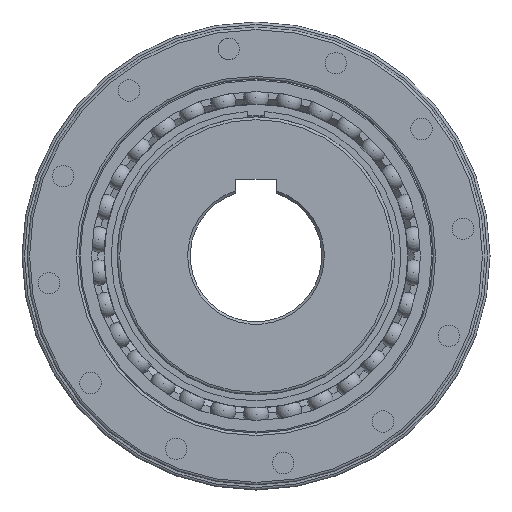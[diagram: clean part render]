
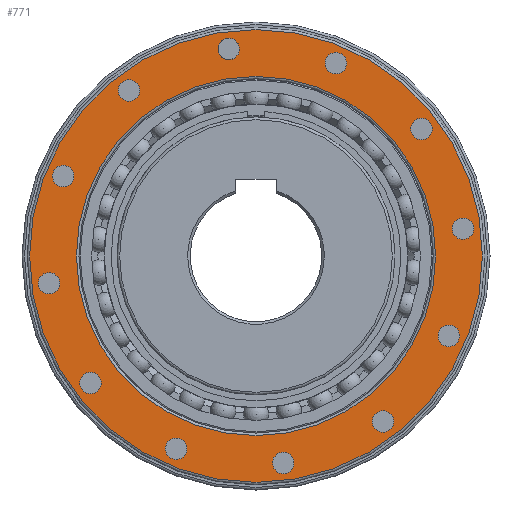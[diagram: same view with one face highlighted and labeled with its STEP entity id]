
A CAD part, left-side view. The second image highlights one B-rep face of the part: STEP entity #771.
In plain terms, the highlighted planar face has unit normal (-1, 0, 0).
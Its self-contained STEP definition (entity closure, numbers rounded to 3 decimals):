
#771 = ADVANCED_FACE( '', ( #1884, #1885, #1886, #1887, #1888, #1889, #1890, #1891, #1892, #1893, #1894, #1895, #1896, #1897 ), #1898, .T. );
#1884 = FACE_OUTER_BOUND( '', #3375, .T. );
#1885 = FACE_BOUND( '', #3376, .T. );
#1886 = FACE_BOUND( '', #3377, .T. );
#1887 = FACE_BOUND( '', #3378, .T. );
#1888 = FACE_BOUND( '', #3379, .T. );
#1889 = FACE_BOUND( '', #3380, .T. );
#1890 = FACE_BOUND( '', #3381, .T. );
#1891 = FACE_BOUND( '', #3382, .T. );
#1892 = FACE_BOUND( '', #3383, .T. );
#1893 = FACE_BOUND( '', #3384, .T. );
#1894 = FACE_BOUND( '', #3385, .T. );
#1895 = FACE_BOUND( '', #3386, .T. );
#1896 = FACE_BOUND( '', #3387, .T. );
#1897 = FACE_BOUND( '', #3388, .T. );
#1898 = PLANE( '', #3389 );
#3375 = EDGE_LOOP( '', ( #5712 ) );
#3376 = EDGE_LOOP( '', ( #5713 ) );
#3377 = EDGE_LOOP( '', ( #5714 ) );
#3378 = EDGE_LOOP( '', ( #5715 ) );
#3379 = EDGE_LOOP( '', ( #5716 ) );
#3380 = EDGE_LOOP( '', ( #5717 ) );
#3381 = EDGE_LOOP( '', ( #5718 ) );
#3382 = EDGE_LOOP( '', ( #5719 ) );
#3383 = EDGE_LOOP( '', ( #5720 ) );
#3384 = EDGE_LOOP( '', ( #5721 ) );
#3385 = EDGE_LOOP( '', ( #5722 ) );
#3386 = EDGE_LOOP( '', ( #5723 ) );
#3387 = EDGE_LOOP( '', ( #5724 ) );
#3388 = EDGE_LOOP( '', ( #5725 ) );
#3389 = AXIS2_PLACEMENT_3D( '', #5726, #5727, #5728 );
#5712 = ORIENTED_EDGE( '', *, *, #9038, .T. );
#5713 = ORIENTED_EDGE( '', *, *, #8569, .T. );
#5714 = ORIENTED_EDGE( '', *, *, #9039, .T. );
#5715 = ORIENTED_EDGE( '', *, *, #9040, .T. );
#5716 = ORIENTED_EDGE( '', *, *, #9041, .T. );
#5717 = ORIENTED_EDGE( '', *, *, #9042, .T. );
#5718 = ORIENTED_EDGE( '', *, *, #8314, .T. );
#5719 = ORIENTED_EDGE( '', *, *, #9043, .T. );
#5720 = ORIENTED_EDGE( '', *, *, #9044, .T. );
#5721 = ORIENTED_EDGE( '', *, *, #9045, .T. );
#5722 = ORIENTED_EDGE( '', *, *, #8433, .T. );
#5723 = ORIENTED_EDGE( '', *, *, #8896, .T. );
#5724 = ORIENTED_EDGE( '', *, *, #8653, .T. );
#5725 = ORIENTED_EDGE( '', *, *, #9046, .T. );
#5726 = CARTESIAN_POINT( '', ( 14.65, 0., 70. ) );
#5727 = DIRECTION( '', ( -1., 0., 0. ) );
#5728 = DIRECTION( '', ( 0., 0., 1. ) );
#8314 = EDGE_CURVE( '', #9932, #9932, #9933, .T. );
#8433 = EDGE_CURVE( '', #10133, #10133, #10134, .T. );
#8569 = EDGE_CURVE( '', #10368, #10368, #10369, .T. );
#8653 = EDGE_CURVE( '', #10512, #10512, #10513, .T. );
#8896 = EDGE_CURVE( '', #10906, #10906, #10907, .T. );
#9038 = EDGE_CURVE( '', #11129, #11129, #11130, .T. );
#9039 = EDGE_CURVE( '', #11131, #11131, #11132, .T. );
#9040 = EDGE_CURVE( '', #11133, #11133, #11134, .T. );
#9041 = EDGE_CURVE( '', #11135, #11135, #11136, .T. );
#9042 = EDGE_CURVE( '', #11137, #11137, #11138, .T. );
#9043 = EDGE_CURVE( '', #11139, #11139, #11140, .T. );
#9044 = EDGE_CURVE( '', #11141, #11141, #11142, .T. );
#9045 = EDGE_CURVE( '', #11143, #11143, #11144, .T. );
#9046 = EDGE_CURVE( '', #11145, #11145, #11146, .T. );
#9932 = VERTEX_POINT( '', #12456 );
#9933 = CIRCLE( '', #12457, 4.25 );
#10133 = VERTEX_POINT( '', #13632 );
#10134 = CIRCLE( '', #13633, 4.25 );
#10368 = VERTEX_POINT( '', #14602 );
#10369 = CIRCLE( '', #14603, 71. );
#10512 = VERTEX_POINT( '', #15416 );
#10513 = CIRCLE( '', #15417, 4.25 );
#10906 = VERTEX_POINT( '', #17654 );
#10907 = CIRCLE( '', #17655, 4.25 );
#11129 = VERTEX_POINT( '', #19042 );
#11130 = CIRCLE( '', #19043, 89.5 );
#11131 = VERTEX_POINT( '', #19044 );
#11132 = CIRCLE( '', #19045, 4.25 );
#11133 = VERTEX_POINT( '', #19046 );
#11134 = CIRCLE( '', #19047, 4.25 );
#11135 = VERTEX_POINT( '', #19048 );
#11136 = CIRCLE( '', #19049, 4.25 );
#11137 = VERTEX_POINT( '', #19050 );
#11138 = CIRCLE( '', #19051, 4.25 );
#11139 = VERTEX_POINT( '', #19052 );
#11140 = CIRCLE( '', #19053, 4.25 );
#11141 = VERTEX_POINT( '', #19054 );
#11142 = CIRCLE( '', #19055, 4.25 );
#11143 = VERTEX_POINT( '', #19056 );
#11144 = CIRCLE( '', #19057, 4.25 );
#11145 = VERTEX_POINT( '', #19058 );
#11146 = CIRCLE( '', #19059, 4.25 );
#12456 = CARTESIAN_POINT( '', ( 14.65, -31.571, 80.47 ) );
#12457 = AXIS2_PLACEMENT_3D( '', #23173, #23174, #23175 );
#13632 = CARTESIAN_POINT( '', ( 14.65, -50.223, -61.202 ) );
#13633 = AXIS2_PLACEMENT_3D( '', #23284, #23285, #23286 );
#14602 = CARTESIAN_POINT( '', ( 14.65, 0., 71. ) );
#14603 = AXIS2_PLACEMENT_3D( '', #23461, #23462, #23463 );
#15416 = CARTESIAN_POINT( '', ( 14.65, 31.571, -71.97 ) );
#15417 = AXIS2_PLACEMENT_3D( '', #23526, #23527, #23528 );
#17654 = CARTESIAN_POINT( '', ( 14.65, -10.768, -77.544 ) );
#17655 = AXIS2_PLACEMENT_3D( '', #23753, #23754, #23755 );
#19042 = CARTESIAN_POINT( '', ( 14.65, 0., 89.5 ) );
#19043 = AXIS2_PLACEMENT_3D( '', #23864, #23865, #23866 );
#19044 = CARTESIAN_POINT( '', ( 14.65, 81.794, -6.518 ) );
#19045 = AXIS2_PLACEMENT_3D( '', #23867, #23868, #23869 );
#19046 = CARTESIAN_POINT( '', ( 14.65, 76.22, 35.821 ) );
#19047 = AXIS2_PLACEMENT_3D( '', #23870, #23871, #23872 );
#19048 = CARTESIAN_POINT( '', ( 14.65, 50.223, 69.702 ) );
#19049 = AXIS2_PLACEMENT_3D( '', #23873, #23874, #23875 );
#19050 = CARTESIAN_POINT( '', ( 14.65, 10.768, 86.044 ) );
#19051 = AXIS2_PLACEMENT_3D( '', #23876, #23877, #23878 );
#19052 = CARTESIAN_POINT( '', ( 14.65, -65.452, 54.473 ) );
#19053 = AXIS2_PLACEMENT_3D( '', #23879, #23880, #23881 );
#19054 = CARTESIAN_POINT( '', ( 14.65, -81.794, 15.018 ) );
#19055 = AXIS2_PLACEMENT_3D( '', #23882, #23883, #23884 );
#19056 = CARTESIAN_POINT( '', ( 14.65, -76.22, -27.321 ) );
#19057 = AXIS2_PLACEMENT_3D( '', #23885, #23886, #23887 );
#19058 = CARTESIAN_POINT( '', ( 14.65, 65.452, -45.973 ) );
#19059 = AXIS2_PLACEMENT_3D( '', #23888, #23889, #23890 );
#23173 = CARTESIAN_POINT( '', ( 14.65, -31.571, 76.22 ) );
#23174 = DIRECTION( '', ( 1., 0., 0. ) );
#23175 = DIRECTION( '', ( 0., 0., 1. ) );
#23284 = CARTESIAN_POINT( '', ( 14.65, -50.223, -65.452 ) );
#23285 = DIRECTION( '', ( 1., 0., 0. ) );
#23286 = DIRECTION( '', ( 0., 0., 1. ) );
#23461 = CARTESIAN_POINT( '', ( 14.65, 0., 0. ) );
#23462 = DIRECTION( '', ( 1., 0., 0. ) );
#23463 = DIRECTION( '', ( 0., 0., 1. ) );
#23526 = CARTESIAN_POINT( '', ( 14.65, 31.571, -76.22 ) );
#23527 = DIRECTION( '', ( 1., 0., 0. ) );
#23528 = DIRECTION( '', ( 0., 0., 1. ) );
#23753 = CARTESIAN_POINT( '', ( 14.65, -10.768, -81.794 ) );
#23754 = DIRECTION( '', ( 1., 0., 0. ) );
#23755 = DIRECTION( '', ( 0., 0., 1. ) );
#23864 = CARTESIAN_POINT( '', ( 14.65, 0., 0. ) );
#23865 = DIRECTION( '', ( -1., 0., 0. ) );
#23866 = DIRECTION( '', ( 0., 0., 1. ) );
#23867 = CARTESIAN_POINT( '', ( 14.65, 81.794, -10.768 ) );
#23868 = DIRECTION( '', ( 1., 0., 0. ) );
#23869 = DIRECTION( '', ( 0., 0., 1. ) );
#23870 = CARTESIAN_POINT( '', ( 14.65, 76.22, 31.571 ) );
#23871 = DIRECTION( '', ( 1., 0., 0. ) );
#23872 = DIRECTION( '', ( 0., 0., 1. ) );
#23873 = CARTESIAN_POINT( '', ( 14.65, 50.223, 65.452 ) );
#23874 = DIRECTION( '', ( 1., 0., 0. ) );
#23875 = DIRECTION( '', ( 0., 0., 1. ) );
#23876 = CARTESIAN_POINT( '', ( 14.65, 10.768, 81.794 ) );
#23877 = DIRECTION( '', ( 1., 0., 0. ) );
#23878 = DIRECTION( '', ( 0., 0., 1. ) );
#23879 = CARTESIAN_POINT( '', ( 14.65, -65.452, 50.223 ) );
#23880 = DIRECTION( '', ( 1., 0., 0. ) );
#23881 = DIRECTION( '', ( 0., 0., 1. ) );
#23882 = CARTESIAN_POINT( '', ( 14.65, -81.794, 10.768 ) );
#23883 = DIRECTION( '', ( 1., 0., 0. ) );
#23884 = DIRECTION( '', ( 0., 0., 1. ) );
#23885 = CARTESIAN_POINT( '', ( 14.65, -76.22, -31.571 ) );
#23886 = DIRECTION( '', ( 1., 0., 0. ) );
#23887 = DIRECTION( '', ( 0., 0., 1. ) );
#23888 = CARTESIAN_POINT( '', ( 14.65, 65.452, -50.223 ) );
#23889 = DIRECTION( '', ( 1., 0., 0. ) );
#23890 = DIRECTION( '', ( 0., 0., 1. ) );
